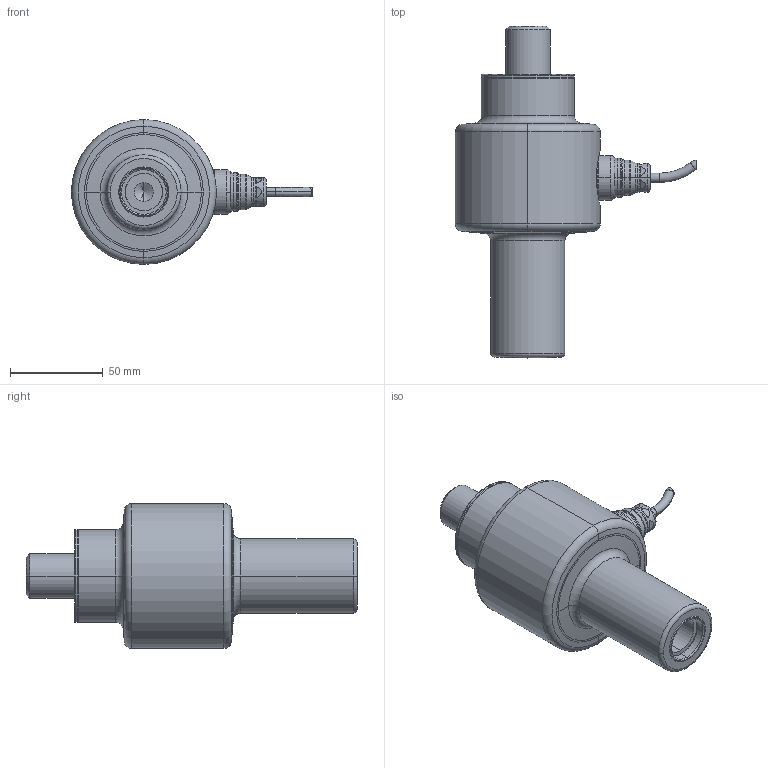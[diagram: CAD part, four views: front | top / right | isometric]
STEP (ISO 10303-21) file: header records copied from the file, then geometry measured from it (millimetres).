
FILE_DESCRIPTION((''),'1');
FILE_NAME('LFLA_3A_M24_10000_kg.step','2024-07-02T08:31:51',(''),(''),'','','');
FILE_SCHEMA(('AUTOMOTIVE_DESIGN { 1 0 10303 214 1 1 1 1 }'));
Length unit declared in the file: metre
Products named in the file (10): LFLA part 01; LFLA body 01; LFLA cable 01; LFLA cable gland 01; LFLA cable gland 02; LFLA part 03; LFLA connector 01; LFLA O-ring 01; LFLA O-ring 02; LFLA 3A_M24_10000_kg
Assembly tree (9 placements, depth 3):
  LFLA 3A_M24_10000_kg
    LFLA part 01
      LFLA body 01
      LFLA cable 01
      LFLA cable gland 01
      LFLA cable gland 02
      LFLA part 03
      LFLA connector 01
      LFLA O-ring 01
      LFLA O-ring 02
Bounding box: 129.85 x 178.75 x 78 mm (x, y, z)
Volume: 424716.8 mm3; surface area: 74415.6 mm2
Topology: 8 solids, 8 shells, 179 faces, 352 edges, 205 vertices
Faces by surface type: cylinder 74, torus 54, plane 33, cone 18
Entity records: 5264 total; most frequent: CARTESIAN_POINT 1108, DIRECTION 968, ORIENTED_EDGE 700, AXIS2_PLACEMENT_3D 438, EDGE_CURVE 350, CIRCLE 242, EDGE_LOOP 209, VERTEX_POINT 205
